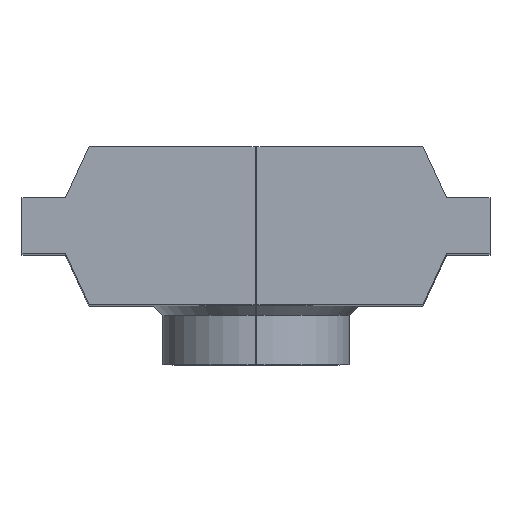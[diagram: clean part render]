
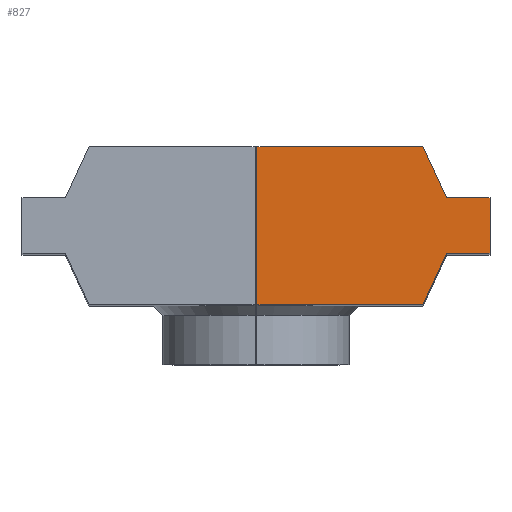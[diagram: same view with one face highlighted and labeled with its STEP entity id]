
A CAD part, top view. The second image highlights one B-rep face of the part: STEP entity #827.
In plain terms, the highlighted planar face has unit normal (0, 0, 1).
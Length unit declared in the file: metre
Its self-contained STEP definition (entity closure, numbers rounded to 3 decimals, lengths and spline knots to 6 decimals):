
#114=ORIENTED_EDGE('',*,*,#360,.F.);
#115=ORIENTED_EDGE('',*,*,#341,.F.);
#116=ORIENTED_EDGE('',*,*,#348,.T.);
#117=ORIENTED_EDGE('',*,*,#351,.F.);
#118=ORIENTED_EDGE('',*,*,#354,.F.);
#119=ORIENTED_EDGE('',*,*,#357,.T.);
#120=ORIENTED_EDGE('',*,*,#359,.F.);
#121=ORIENTED_EDGE('',*,*,#331,.T.);
#331=EDGE_CURVE('',#458,#456,#541,.T.);
#341=EDGE_CURVE('',#467,#468,#549,.T.);
#348=EDGE_CURVE('',#467,#473,#554,.T.);
#351=EDGE_CURVE('',#475,#473,#557,.T.);
#354=EDGE_CURVE('',#477,#475,#560,.T.);
#357=EDGE_CURVE('',#477,#479,#563,.T.);
#359=EDGE_CURVE('',#458,#479,#565,.T.);
#360=EDGE_CURVE('',#468,#456,#566,.T.);
#456=VERTEX_POINT('',#1194);
#458=VERTEX_POINT('',#1197);
#467=VERTEX_POINT('',#1216);
#468=VERTEX_POINT('',#1218);
#473=VERTEX_POINT('',#1230);
#475=VERTEX_POINT('',#1236);
#477=VERTEX_POINT('',#1242);
#479=VERTEX_POINT('',#1248);
#541=LINE('',#1196,#621);
#549=LINE('',#1217,#629);
#554=LINE('',#1231,#634);
#557=LINE('',#1237,#637);
#560=LINE('',#1243,#640);
#563=LINE('',#1249,#643);
#565=LINE('',#1252,#645);
#566=LINE('',#1254,#646);
#621=VECTOR('',#968,1.);
#629=VECTOR('',#982,1.);
#634=VECTOR('',#993,1.);
#637=VECTOR('',#998,1.);
#640=VECTOR('',#1003,1.);
#643=VECTOR('',#1008,1.);
#645=VECTOR('',#1012,1.);
#646=VECTOR('',#1015,1.);
#707=EDGE_LOOP('',(#114,#115,#116,#117,#118,#119,#120,#121));
#753=FACE_BOUND('',#707,.T.);
#799=PLANE('',#901);
#827=ADVANCED_FACE('',(#753),#799,.T.);
#901=AXIS2_PLACEMENT_3D('',#1253,#1013,#1014);
#968=DIRECTION('',(-1.,0.,0.));
#982=DIRECTION('',(-1.,0.,0.));
#993=DIRECTION('',(0.419,0.908,0.));
#998=DIRECTION('',(-1.,0.,0.));
#1003=DIRECTION('',(0.,-1.,0.));
#1008=DIRECTION('',(-1.,0.,0.));
#1012=DIRECTION('',(0.419,-0.908,0.));
#1013=DIRECTION('',(0.,0.,1.));
#1014=DIRECTION('',(1.,0.,0.));
#1015=DIRECTION('',(0.,1.,0.));
#1194=CARTESIAN_POINT('',(0.00005,0.004,0.055));
#1196=CARTESIAN_POINT('',(0.,0.004,0.055));
#1197=CARTESIAN_POINT('',(0.00845,0.004,0.055));
#1216=CARTESIAN_POINT('',(0.00845,-0.004,0.055));
#1217=CARTESIAN_POINT('',(0.,-0.004,0.055));
#1218=CARTESIAN_POINT('',(0.00005,-0.004,0.055));
#1230=CARTESIAN_POINT('',(0.00965,-0.0014,0.055));
#1231=CARTESIAN_POINT('',(0.00905,-0.0027,0.055));
#1236=CARTESIAN_POINT('',(0.01185,-0.0014,0.055));
#1237=CARTESIAN_POINT('',(0.01075,-0.0014,0.055));
#1242=CARTESIAN_POINT('',(0.01185,0.0014,0.055));
#1243=CARTESIAN_POINT('',(0.01185,-0.0007,0.055));
#1248=CARTESIAN_POINT('',(0.00965,0.0014,0.055));
#1249=CARTESIAN_POINT('',(0.01075,0.0014,0.055));
#1252=CARTESIAN_POINT('',(0.00905,0.0027,0.055));
#1253=CARTESIAN_POINT('',(0.,0.,0.055));
#1254=CARTESIAN_POINT('',(0.00005,-0.021,0.055));
